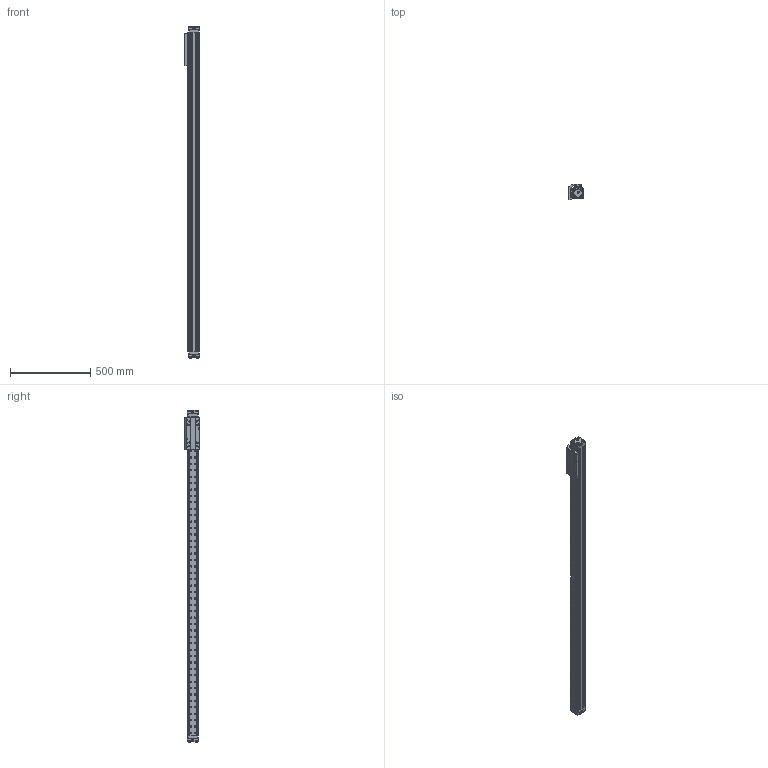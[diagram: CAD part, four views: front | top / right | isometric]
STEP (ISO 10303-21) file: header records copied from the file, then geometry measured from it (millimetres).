
FILE_DESCRIPTION (( 'STEP AP203' ), '1' );
FILE_NAME ('MXP40P_NP_SK70.000_MXP-493055-1.step', '2025-07-17T19:34:45', ( '' ), ( '' ), 'SwSTEP 2.0', 'SolidWorks 2024', '' );
FILE_SCHEMA (( 'CONFIG_CONTROL_DESIGN' ));
Length unit declared in the file: inch
Products named in the file (4): 81409504_MXP40P_NP_SK70.000_MXP-493055-1; MXP40P_NP_SK70.000_MXP-493055-1; 81409500_MXP40P_NP_SK70.000_MXP-493055-1; Base_MXP40P_NP_SK70.000_MXP-493055-1
Assembly tree (3 placements, depth 2):
  MXP40P_NP_SK70.000_MXP-493055-1
    81409500_MXP40P_NP_SK70.000_MXP-493055-1
    81409504_MXP40P_NP_SK70.000_MXP-493055-1
    Base_MXP40P_NP_SK70.000_MXP-493055-1
Bounding box: 89.71 x 97.8 x 2073.47 mm (x, y, z)
Volume: 6549842.3 mm3; surface area: 1449982.9 mm2
Topology: 4 solids, 21 shells, 1971 faces, 4902 edges, 3164 vertices
Faces by surface type: plane 1068, cylinder 637, cone 164, torus 52, bspline 32, sphere 18
Full cylindrical faces by diameter (mm): 2.7 x8, 3.3 x8, 4 x8, 4.5 x100, 4.699 x2, 4.8 x2, 5.105 x16, 5.5 x4, 6.35 x8, 6.4 x4, 6.528 x8, 7 x10, 7.56 x2, 7.874 x2, 7.9 x8, 7.976 x2, 8 x100, 9.525 x8, 11.1 x8, 15.768 x4, 17 x8, 39.5 x1, 40 x1
Entity records: 57344 total; most frequent: CARTESIAN_POINT 11469, DIRECTION 9424, ORIENTED_EDGE 8700, EDGE_CURVE 4350, AXIS2_PLACEMENT_3D 3427, VERTEX_POINT 3062, EDGE_LOOP 2848, VECTOR 2570
